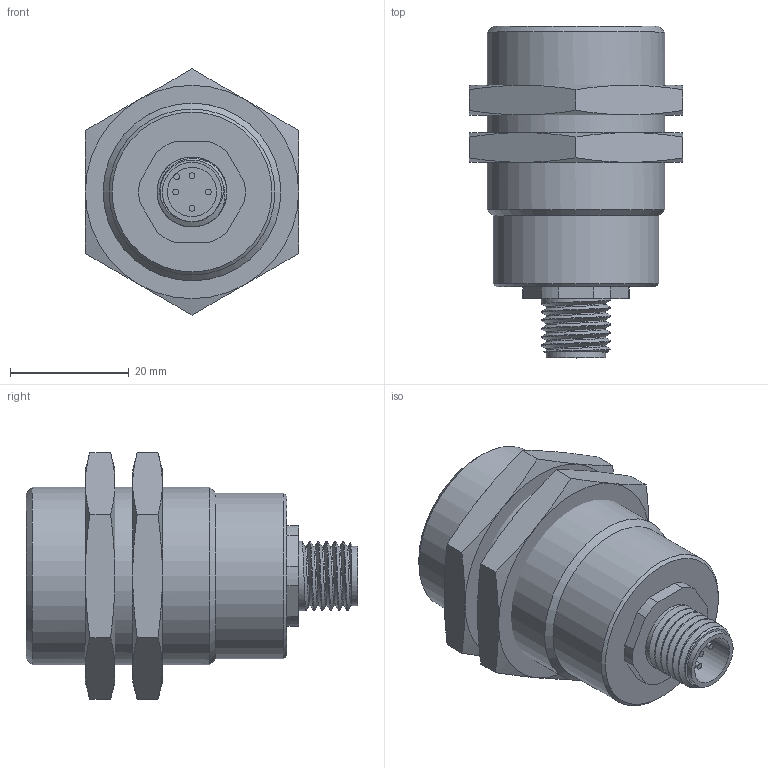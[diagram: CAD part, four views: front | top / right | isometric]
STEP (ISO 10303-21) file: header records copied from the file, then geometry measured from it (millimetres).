
FILE_DESCRIPTION(/* description */ ('Katalogmodell Elobau'),/* implementation_level */ '2;1');
FILE_NAME(/* name */ 'Katalogdaten.stp',/* time_stamp */ '2014-09-10T17:11:27+02:00',/* author */ ('Elobau GmbH & Co. KG'),/* organization */ ('Elobau GmbH & Co. KG'),/* preprocessor_version */ 'ST-DEVELOPER v15',/* originating_system */ 'SIEMENS PLM Software NX 8.5',/* authorisation */ '');
FILE_SCHEMA (('AUTOMOTIVE_DESIGN { 1 0 10303 214 3 1 1 1 }'));
Length unit declared in the file: millimetre
Products named in the file (1): 171271VY01_C
Bounding box: 36 x 56 x 41.57 mm (x, y, z)
Volume: 42013.2 mm3; surface area: 11909.3 mm2
Topology: 3 solids, 3 shells, 84 faces, 186 edges, 116 vertices
Faces by surface type: plane 36, cone 28, cylinder 18, bspline 2
Full cylindrical faces by diameter (mm): 1 x4, 10 x1, 28 x1, 30 x1
Entity records: 4094 total; most frequent: CARTESIAN_POINT 2374, ORIENTED_EDGE 344, DIRECTION 324, EDGE_CURVE 172, AXIS2_PLACEMENT_3D 145, VERTEX_POINT 111, EDGE_LOOP 101, ADVANCED_FACE 84
